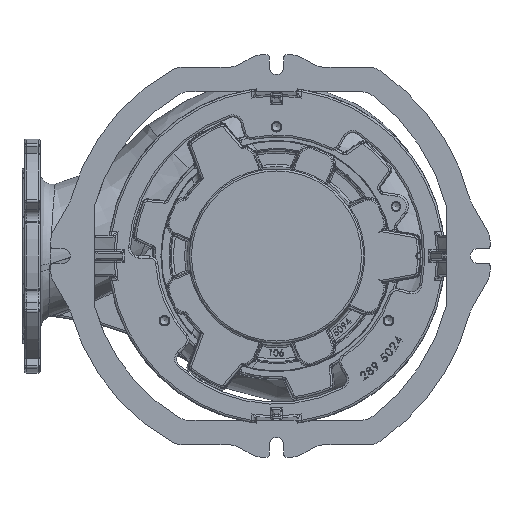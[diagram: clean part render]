
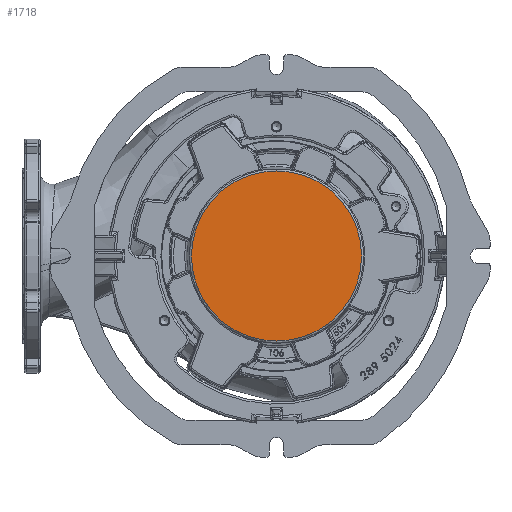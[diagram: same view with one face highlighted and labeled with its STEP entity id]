
A CAD part, front view. The second image highlights one B-rep face of the part: STEP entity #1718.
In plain terms, the highlighted planar face has unit normal (0, -1, 0).
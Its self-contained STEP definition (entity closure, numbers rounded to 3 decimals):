
#1718 = ADVANCED_FACE ( 'NONE', ( #21814 ), #15025, .T. ) ;
#5611 = DIRECTION ( 'NONE',  ( -1., 0., 0. ) ) ;
#15025 = PLANE ( 'NONE',  #119615 ) ;
#16378 = CARTESIAN_POINT ( 'NONE',  ( 0., -31., 0. ) ) ;
#21814 = FACE_OUTER_BOUND ( 'NONE', #88488, .T. ) ;
#37970 = DIRECTION ( 'NONE',  ( 0., -1., 0. ) ) ;
#48930 = AXIS2_PLACEMENT_3D ( 'NONE', #75127, #121202, #131527 ) ;
#63920 = EDGE_CURVE ( 'NONE', #99514, #99514, #109280, .T. ) ;
#75127 = CARTESIAN_POINT ( 'NONE',  ( 0., -31., 0. ) ) ;
#76281 = CARTESIAN_POINT ( 'NONE',  ( 0., -31., -103.628 ) ) ;
#88488 = EDGE_LOOP ( 'NONE', ( #138031 ) ) ;
#99514 = VERTEX_POINT ( 'NONE', #76281 ) ;
#109280 = CIRCLE ( 'NONE', #48930, 103.628 ) ;
#119615 = AXIS2_PLACEMENT_3D ( 'NONE', #16378, #37970, #5611 ) ;
#121202 = DIRECTION ( 'NONE',  ( 0., -1., 0. ) ) ;
#131527 = DIRECTION ( 'NONE',  ( 0., 0., -1. ) ) ;
#138031 = ORIENTED_EDGE ( 'NONE', *, *, #63920, .T. ) ;
